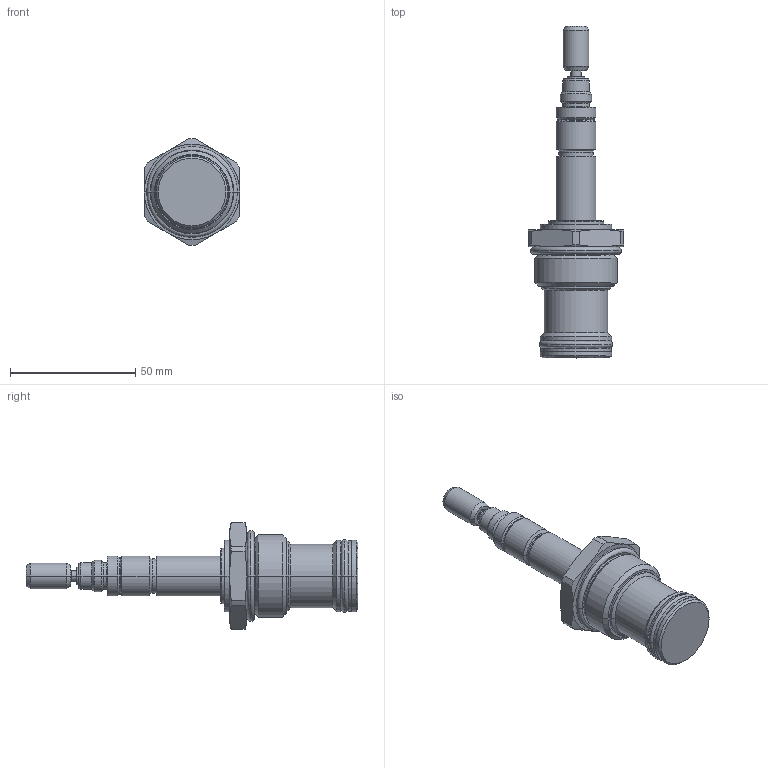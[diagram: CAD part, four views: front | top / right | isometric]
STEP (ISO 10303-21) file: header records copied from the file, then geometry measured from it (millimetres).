
FILE_DESCRIPTION((''),'2;1');
FILE_NAME('PRT0007','2009-03-03T',('JCS'),(''),'PRO/ENGINEER BY PARAMETRIC TECHNOLOGY CORPORATION, 2008010','PRO/ENGINEER BY PARAMETRIC TECHNOLOGY CORPORATION, 2008010','');
FILE_SCHEMA(('CONFIG_CONTROL_DESIGN'));
Length unit declared in the file: inch
Products named in the file (1): PRT0007
Bounding box: 38.1 x 132.54 x 42.66 mm (x, y, z)
Volume: 50955.6 mm3; surface area: 13702.7 mm2
Topology: 3 solids, 3 shells, 169 faces, 346 edges, 192 vertices
Faces by surface type: cone 62, cylinder 54, plane 21, torus 16, revolution 16
Entity records: 4894 total; most frequent: CARTESIAN_POINT 1249, DIRECTION 824, ORIENTED_EDGE 692, AXIS2_PLACEMENT_3D 349, EDGE_CURVE 346, CIRCLE 196, VERTEX_POINT 192, EDGE_LOOP 182
